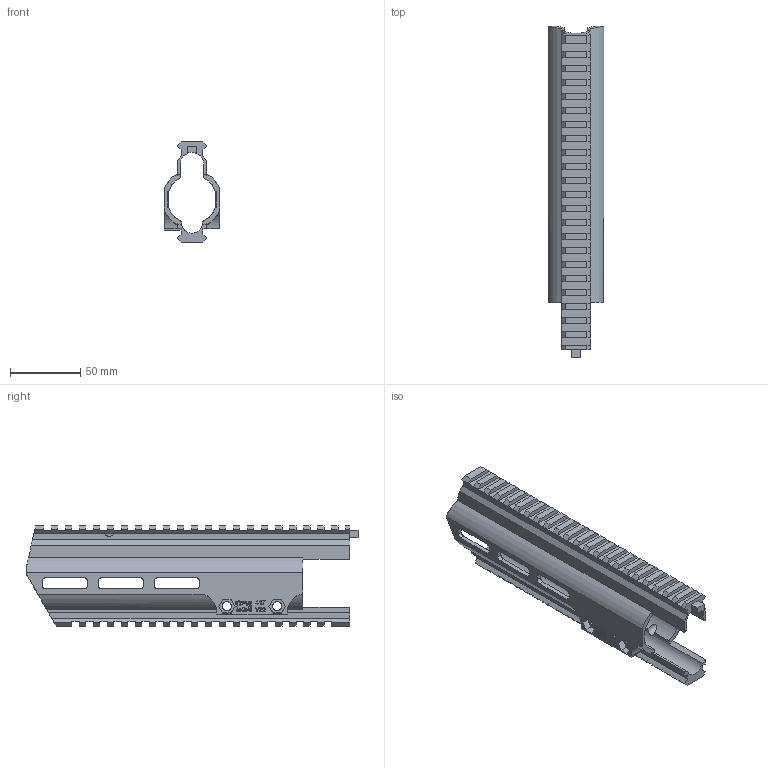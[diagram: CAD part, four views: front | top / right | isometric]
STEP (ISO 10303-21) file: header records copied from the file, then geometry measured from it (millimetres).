
FILE_DESCRIPTION(/* description */ (''),/* implementation_level */ '2;1');
FILE_NAME(/* name */ '417 rail no sight.step',/* time_stamp */ '2025-11-07T14:40:49-06:00',/* author */ (''),/* organization */ (''),/* preprocessor_version */ 'ST-DEVELOPER v20.1',/* originating_system */ 'Autodesk Translation Framework v14.21.0.0',/* authorisation */ '');
FILE_SCHEMA (('AUTOMOTIVE_DESIGN { 1 0 10303 214 3 1 1 }'));
Length unit declared in the file: millimetre
Products named in the file (1): 417 rail no sight
Bounding box: 39.5 x 237 x 71.49 mm (x, y, z)
Volume: 122947.2 mm3; surface area: 79295.5 mm2
Topology: 1 solids, 1 shells, 523 faces, 1544 edges, 1026 vertices
Faces by surface type: plane 405, bspline 60, cylinder 56, cone 2
Full cylindrical faces by diameter (mm): 6.55 x4
Entity records: 24564 total; most frequent: CARTESIAN_POINT 10916, ORIENTED_EDGE 3088, DIRECTION 2434, EDGE_CURVE 1544, LINE 1282, VECTOR 1282, VERTEX_POINT 1026, AXIS2_PLACEMENT_3D 576
